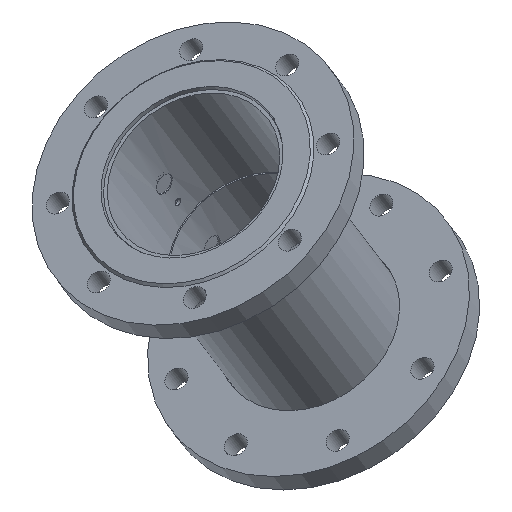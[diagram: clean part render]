
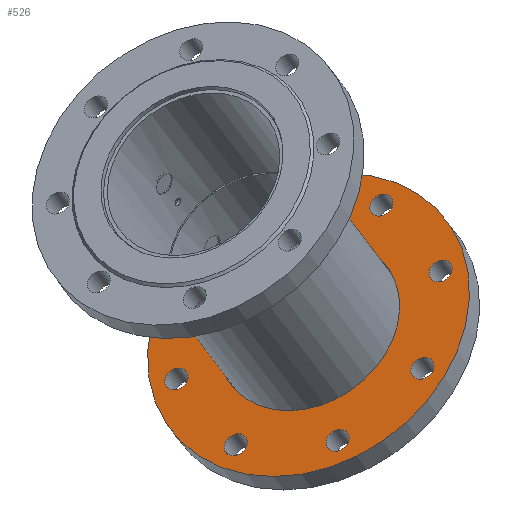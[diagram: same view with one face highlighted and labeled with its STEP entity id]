
A CAD part, isometric view. The second image highlights one B-rep face of the part: STEP entity #526.
In plain terms, the highlighted planar face has unit normal (-0.522, 0, 0.853) as drawn and (0, 0, -1) by its records, which use the part's own axes.
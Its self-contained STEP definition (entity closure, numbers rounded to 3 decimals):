
#526 = ADVANCED_FACE( '', ( #1172, #1173, #1174, #1175, #1176, #1177, #1178, #1179, #1180, #1181 ), #1182, .T. );
#1172 = FACE_BOUND( '', #2329, .T. );
#1173 = FACE_BOUND( '', #2330, .T. );
#1174 = FACE_BOUND( '', #2331, .T. );
#1175 = FACE_BOUND( '', #2332, .T. );
#1176 = FACE_BOUND( '', #2333, .T. );
#1177 = FACE_BOUND( '', #2334, .T. );
#1178 = FACE_BOUND( '', #2335, .T. );
#1179 = FACE_BOUND( '', #2336, .T. );
#1180 = FACE_BOUND( '', #2337, .T. );
#1181 = FACE_OUTER_BOUND( '', #2338, .T. );
#1182 = PLANE( '', #2339 );
#2329 = EDGE_LOOP( '', ( #6171 ) );
#2330 = EDGE_LOOP( '', ( #6172 ) );
#2331 = EDGE_LOOP( '', ( #6173 ) );
#2332 = EDGE_LOOP( '', ( #6174 ) );
#2333 = EDGE_LOOP( '', ( #6175 ) );
#2334 = EDGE_LOOP( '', ( #6176 ) );
#2335 = EDGE_LOOP( '', ( #6177 ) );
#2336 = EDGE_LOOP( '', ( #6178 ) );
#2337 = EDGE_LOOP( '', ( #6179 ) );
#2338 = EDGE_LOOP( '', ( #6180 ) );
#2339 = AXIS2_PLACEMENT_3D( '', #6181, #6182, #6183 );
#6171 = ORIENTED_EDGE( '', *, *, #8143, .F. );
#6172 = ORIENTED_EDGE( '', *, *, #8144, .F. );
#6173 = ORIENTED_EDGE( '', *, *, #8145, .F. );
#6174 = ORIENTED_EDGE( '', *, *, #8146, .F. );
#6175 = ORIENTED_EDGE( '', *, *, #8147, .F. );
#6176 = ORIENTED_EDGE( '', *, *, #8014, .F. );
#6177 = ORIENTED_EDGE( '', *, *, #8148, .F. );
#6178 = ORIENTED_EDGE( '', *, *, #8011, .F. );
#6179 = ORIENTED_EDGE( '', *, *, #7998, .T. );
#6180 = ORIENTED_EDGE( '', *, *, #8149, .F. );
#6181 = CARTESIAN_POINT( '', ( 70.75, 0., -2.141 ) );
#6182 = DIRECTION( '', ( 0., 0., -1. ) );
#6183 = DIRECTION( '', ( -1., 0., 0. ) );
#7998 = EDGE_CURVE( '', #8817, #8817, #8818, .T. );
#8011 = EDGE_CURVE( '', #8840, #8840, #8841, .T. );
#8014 = EDGE_CURVE( '', #8845, #8845, #8846, .T. );
#8143 = EDGE_CURVE( '', #9070, #9070, #9071, .T. );
#8144 = EDGE_CURVE( '', #9072, #9072, #9073, .T. );
#8145 = EDGE_CURVE( '', #9074, #9074, #9075, .T. );
#8146 = EDGE_CURVE( '', #9076, #9076, #9077, .T. );
#8147 = EDGE_CURVE( '', #9078, #9078, #9079, .T. );
#8148 = EDGE_CURVE( '', #9080, #9080, #9081, .T. );
#8149 = EDGE_CURVE( '', #9082, #9082, #9083, .T. );
#8817 = VERTEX_POINT( '', #9998 );
#8818 = CIRCLE( '', #9999, 70.75 );
#8840 = VERTEX_POINT( '', #10030 );
#8841 = CIRCLE( '', #10031, 9. );
#8845 = VERTEX_POINT( '', #10035 );
#8846 = CIRCLE( '', #10036, 9. );
#9070 = VERTEX_POINT( '', #10423 );
#9071 = CIRCLE( '', #10424, 9. );
#9072 = VERTEX_POINT( '', #10425 );
#9073 = CIRCLE( '', #10426, 9. );
#9074 = VERTEX_POINT( '', #10427 );
#9075 = CIRCLE( '', #10428, 9. );
#9076 = VERTEX_POINT( '', #10429 );
#9077 = CIRCLE( '', #10430, 9. );
#9078 = VERTEX_POINT( '', #10431 );
#9079 = CIRCLE( '', #10432, 9. );
#9080 = VERTEX_POINT( '', #10433 );
#9081 = CIRCLE( '', #10434, 9. );
#9082 = VERTEX_POINT( '', #10435 );
#9083 = CIRCLE( '', #10436, 125. );
#9998 = CARTESIAN_POINT( '', ( 70.75, 0., -2.141 ) );
#9999 = AXIS2_PLACEMENT_3D( '', #12685, #12686, #12687 );
#10030 = CARTESIAN_POINT( '', ( -83.246, 74.246, -2.141 ) );
#10031 = AXIS2_PLACEMENT_3D( '', #12703, #12704, #12705 );
#10035 = CARTESIAN_POINT( '', ( 65.246, 74.246, -2.141 ) );
#10036 = AXIS2_PLACEMENT_3D( '', #12709, #12710, #12711 );
#10423 = CARTESIAN_POINT( '', ( -114., 0., -2.141 ) );
#10424 = AXIS2_PLACEMENT_3D( '', #12905, #12906, #12907 );
#10425 = CARTESIAN_POINT( '', ( -83.246, -74.246, -2.141 ) );
#10426 = AXIS2_PLACEMENT_3D( '', #12908, #12909, #12910 );
#10427 = CARTESIAN_POINT( '', ( -9., -105., -2.141 ) );
#10428 = AXIS2_PLACEMENT_3D( '', #12911, #12912, #12913 );
#10429 = CARTESIAN_POINT( '', ( 65.246, -74.246, -2.141 ) );
#10430 = AXIS2_PLACEMENT_3D( '', #12914, #12915, #12916 );
#10431 = CARTESIAN_POINT( '', ( 96., 0., -2.141 ) );
#10432 = AXIS2_PLACEMENT_3D( '', #12917, #12918, #12919 );
#10433 = CARTESIAN_POINT( '', ( -9., 105., -2.141 ) );
#10434 = AXIS2_PLACEMENT_3D( '', #12920, #12921, #12922 );
#10435 = CARTESIAN_POINT( '', ( 125., 0., -2.141 ) );
#10436 = AXIS2_PLACEMENT_3D( '', #12923, #12924, #12925 );
#12685 = CARTESIAN_POINT( '', ( 0., 0., -2.141 ) );
#12686 = DIRECTION( '', ( 0., 0., 1. ) );
#12687 = DIRECTION( '', ( 1., 0., 0. ) );
#12703 = CARTESIAN_POINT( '', ( -74.246, 74.246, -2.141 ) );
#12704 = DIRECTION( '', ( 0., 0., -1. ) );
#12705 = DIRECTION( '', ( -1., 0., 0. ) );
#12709 = CARTESIAN_POINT( '', ( 74.246, 74.246, -2.141 ) );
#12710 = DIRECTION( '', ( 0., 0., -1. ) );
#12711 = DIRECTION( '', ( -1., 0., 0. ) );
#12905 = CARTESIAN_POINT( '', ( -105., 0., -2.141 ) );
#12906 = DIRECTION( '', ( 0., 0., -1. ) );
#12907 = DIRECTION( '', ( -1., 0., 0. ) );
#12908 = CARTESIAN_POINT( '', ( -74.246, -74.246, -2.141 ) );
#12909 = DIRECTION( '', ( 0., 0., -1. ) );
#12910 = DIRECTION( '', ( -1., 0., 0. ) );
#12911 = CARTESIAN_POINT( '', ( 0., -105., -2.141 ) );
#12912 = DIRECTION( '', ( 0., 0., -1. ) );
#12913 = DIRECTION( '', ( -1., 0., 0. ) );
#12914 = CARTESIAN_POINT( '', ( 74.246, -74.246, -2.141 ) );
#12915 = DIRECTION( '', ( 0., 0., -1. ) );
#12916 = DIRECTION( '', ( -1., 0., 0. ) );
#12917 = CARTESIAN_POINT( '', ( 105., 0., -2.141 ) );
#12918 = DIRECTION( '', ( 0., 0., -1. ) );
#12919 = DIRECTION( '', ( -1., 0., 0. ) );
#12920 = CARTESIAN_POINT( '', ( 0., 105., -2.141 ) );
#12921 = DIRECTION( '', ( 0., 0., -1. ) );
#12922 = DIRECTION( '', ( -1., 0., 0. ) );
#12923 = CARTESIAN_POINT( '', ( 0., 0., -2.141 ) );
#12924 = DIRECTION( '', ( 0., 0., 1. ) );
#12925 = DIRECTION( '', ( 1., 0., 0. ) );
